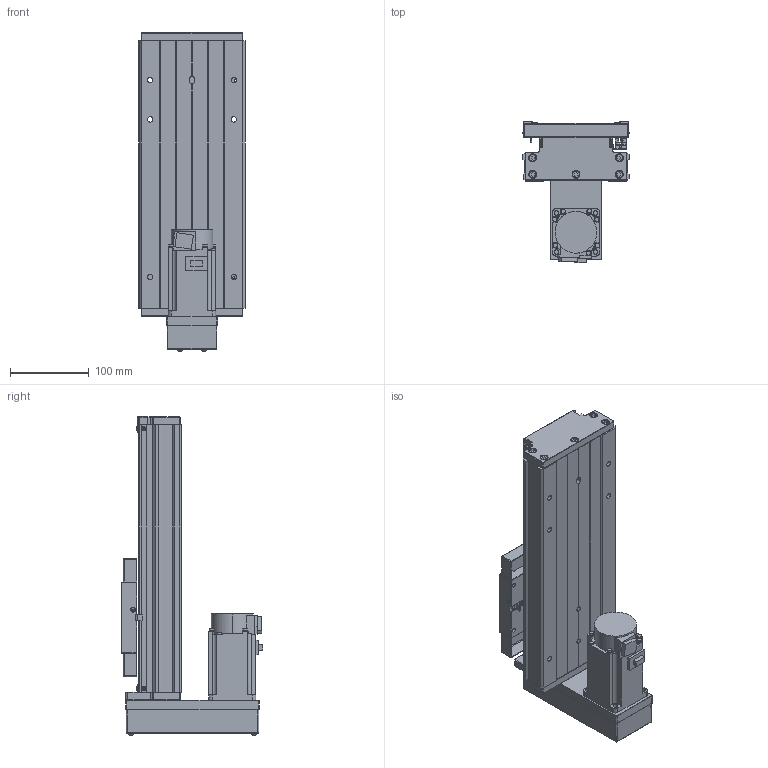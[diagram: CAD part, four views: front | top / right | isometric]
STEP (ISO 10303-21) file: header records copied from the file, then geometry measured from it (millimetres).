
FILE_DESCRIPTION (( 'STEP AP203' ), '1' );
FILE_NAME ('CTH130-150-BM-M40-C4.step', '2023-06-30T02:43:50', ( '微软用户' ), ( '微软中国' ), 'SwSTEP 2.0', 'SolidWorks 2020', '' );
FILE_SCHEMA (( 'CONFIG_CONTROL_DESIGN' ));
Length unit declared in the file: millimetre
Products named in the file (20): す晦芛蹟隊 M3℅5; CTH130-002_GTH14-002; EE_SX911P_R; HG-KN43J-S100; GB T308.1-2013-6.35; CTHA60-016; GBT 70.2-M4¡Á35_M4¡Á35; GTH14-004; GBT 70.1-M3℅5; GTH14-015-2_CTHA86-015-2; GTH14-005; GBT77-2000 M3×3; GTH14-033; GB1155-6X6; CTH130-031; CTH130-150-BM-M40-C4; GBT70.1 M5℅16; GBT 70.2-M3¡Á5_M3¡Á6; GTH14-001_150; CTHA60-017
Assembly tree (60 placements, depth 2):
  CTH130-150-BM-M40-C4
    GTH14-001_150
    CTH130-002_GTH14-002
    GB T308.1-2013-6.35  x2
    GTH14-004
    GTH14-005
    GB1155-6X6  x2
    GBT70.1 M5℅16  x10
    CTHA60-017  x3
    EE_SX911P_R  x3
    CTHA60-016  x2
    GBT 70.1-M3℅5  x6
    GBT77-2000 M3×3  x6
    CTH130-031
    GBT 70.2-M3¡Á5_M3¡Á6  x8
    す晦芛蹟隊 M3℅5  x6
    HG-KN43J-S100
    GBT 70.2-M4¡Á35_M4¡Á35  x4
    GTH14-015-2_CTHA86-015-2
    GTH14-033
Bounding box: 135 x 179.8 x 404.2 mm (x, y, z)
Volume: 2468205 mm3; surface area: 495559.6 mm2
Topology: 63 solids, 63 shells, 2415 faces, 5749 edges, 3553 vertices
Faces by surface type: plane 1306, cylinder 630, cone 299, torus 124, sphere 36, bspline 20
Entity records: 43308 total; most frequent: CARTESIAN_POINT 9747, DIRECTION 6282, ORIENTED_EDGE 6204, EDGE_CURVE 3102, AXIS2_PLACEMENT_3D 2132, VECTOR 2018, LINE 2018, VERTEX_POINT 1963
